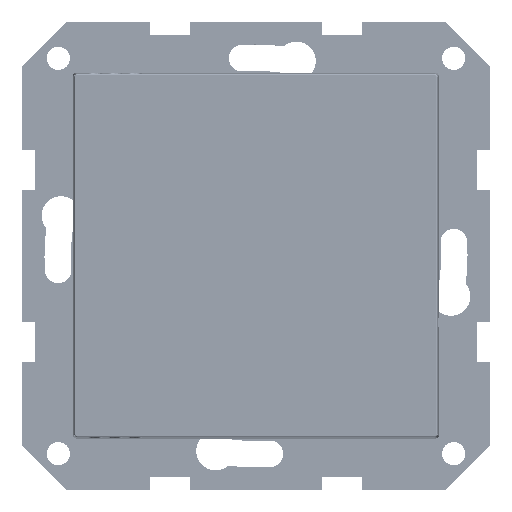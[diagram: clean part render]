
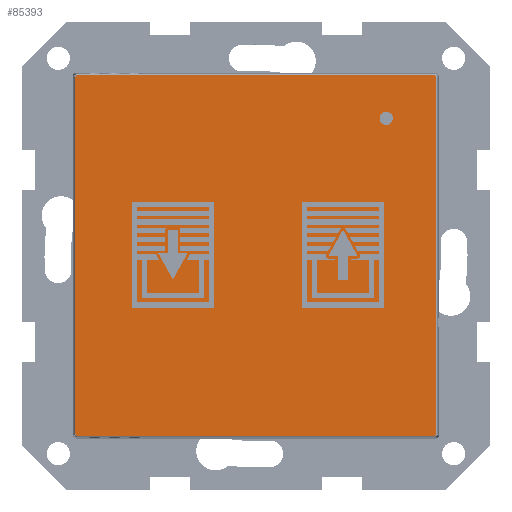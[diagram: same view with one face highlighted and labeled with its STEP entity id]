
A CAD part, top view. The second image highlights one B-rep face of the part: STEP entity #85393.
In plain terms, the highlighted planar face has unit normal (0, 0, 1).
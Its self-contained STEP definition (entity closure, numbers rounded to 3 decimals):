
#5314=CIRCLE('',#90983,0.3);
#5318=CIRCLE('',#90989,0.3);
#5322=CIRCLE('',#90995,0.3);
#5326=CIRCLE('',#91001,0.3);
#11418=FACE_OUTER_BOUND('',#16534,.T.);
#16534=EDGE_LOOP('',(#62887,#62888,#62889,#62890,#62891,#62892,#62893,#62894));
#23883=LINE('',#132754,#31109);
#23884=LINE('',#132762,#31110);
#23886=LINE('',#132774,#31112);
#23888=LINE('',#132783,#31114);
#31109=VECTOR('',#101838,53.976);
#31110=VECTOR('',#101849,53.976);
#31112=VECTOR('',#101863,53.976);
#31114=VECTOR('',#101875,53.976);
#38305=VERTEX_POINT('',#132746);
#38306=VERTEX_POINT('',#132748);
#38307=VERTEX_POINT('',#132752);
#38308=VERTEX_POINT('',#132756);
#38309=VERTEX_POINT('',#132760);
#38310=VERTEX_POINT('',#132764);
#38312=VERTEX_POINT('',#132770);
#38314=VERTEX_POINT('',#132776);
#48168=EDGE_CURVE('',#38305,#38306,#5314,.T.);
#48171=EDGE_CURVE('',#38306,#38307,#23883,.T.);
#48173=EDGE_CURVE('',#38307,#38308,#5318,.T.);
#48175=EDGE_CURVE('',#38308,#38309,#23884,.T.);
#48178=EDGE_CURVE('',#38309,#38310,#5322,.T.);
#48181=EDGE_CURVE('',#38310,#38312,#23886,.T.);
#48184=EDGE_CURVE('',#38312,#38314,#5326,.T.);
#48186=EDGE_CURVE('',#38314,#38305,#23888,.T.);
#62887=ORIENTED_EDGE('',*,*,#48168,.F.);
#62888=ORIENTED_EDGE('',*,*,#48186,.F.);
#62889=ORIENTED_EDGE('',*,*,#48184,.F.);
#62890=ORIENTED_EDGE('',*,*,#48181,.F.);
#62891=ORIENTED_EDGE('',*,*,#48178,.F.);
#62892=ORIENTED_EDGE('',*,*,#48175,.F.);
#62893=ORIENTED_EDGE('',*,*,#48173,.F.);
#62894=ORIENTED_EDGE('',*,*,#48171,.F.);
#83130=PLANE('',#91006);
#85393=ADVANCED_FACE('',(#11418),#83130,.T.);
#90983=AXIS2_PLACEMENT_3D('',#132749,#101830,#101831);
#90989=AXIS2_PLACEMENT_3D('',#132758,#101843,#101844);
#90995=AXIS2_PLACEMENT_3D('',#132768,#101856,#101857);
#91001=AXIS2_PLACEMENT_3D('',#132780,#101870,#101871);
#91006=AXIS2_PLACEMENT_3D('',#132790,#101885,#101886);
#101830=DIRECTION('center_axis',(0.,0.,
-1.));
#101831=DIRECTION('ref_axis',(0.707,-0.707,0.));
#101838=DIRECTION('',(-1.,0.,0.));
#101843=DIRECTION('center_axis',(0.,0.,
-1.));
#101844=DIRECTION('ref_axis',(-0.707,-0.707,0.));
#101849=DIRECTION('',(0.,1.,0.));
#101856=DIRECTION('center_axis',(0.,0.,
-1.));
#101857=DIRECTION('ref_axis',(-0.707,0.707,0.));
#101863=DIRECTION('',(1.,0.,0.));
#101870=DIRECTION('center_axis',(0.,0.,
-1.));
#101871=DIRECTION('ref_axis',(0.707,0.707,0.));
#101875=DIRECTION('',(0.,-1.,0.));
#101885=DIRECTION('center_axis',(0.,0.,
1.));
#101886=DIRECTION('ref_axis',(1.,0.,0.));
#132746=CARTESIAN_POINT('',(27.288,-26.988,0.91));
#132748=CARTESIAN_POINT('',(26.988,-27.288,0.91));
#132749=CARTESIAN_POINT('Origin',(26.988,-26.988,0.91));
#132752=CARTESIAN_POINT('',(-26.988,-27.288,0.91));
#132754=CARTESIAN_POINT('',(26.988,-27.288,0.91));
#132756=CARTESIAN_POINT('',(-27.288,-26.988,0.91));
#132758=CARTESIAN_POINT('Origin',(-26.988,-26.988,0.91));
#132760=CARTESIAN_POINT('',(-27.288,26.988,0.91));
#132762=CARTESIAN_POINT('',(-27.288,-26.988,0.91));
#132764=CARTESIAN_POINT('',(-26.988,27.288,0.91));
#132768=CARTESIAN_POINT('Origin',(-26.988,26.988,0.91));
#132770=CARTESIAN_POINT('',(26.988,27.288,0.91));
#132774=CARTESIAN_POINT('',(-26.988,27.288,0.91));
#132776=CARTESIAN_POINT('',(27.288,26.988,0.91));
#132780=CARTESIAN_POINT('Origin',(26.988,26.988,0.91));
#132783=CARTESIAN_POINT('',(27.288,26.988,0.91));
#132790=CARTESIAN_POINT('Origin',(0.,0.,
0.91));
